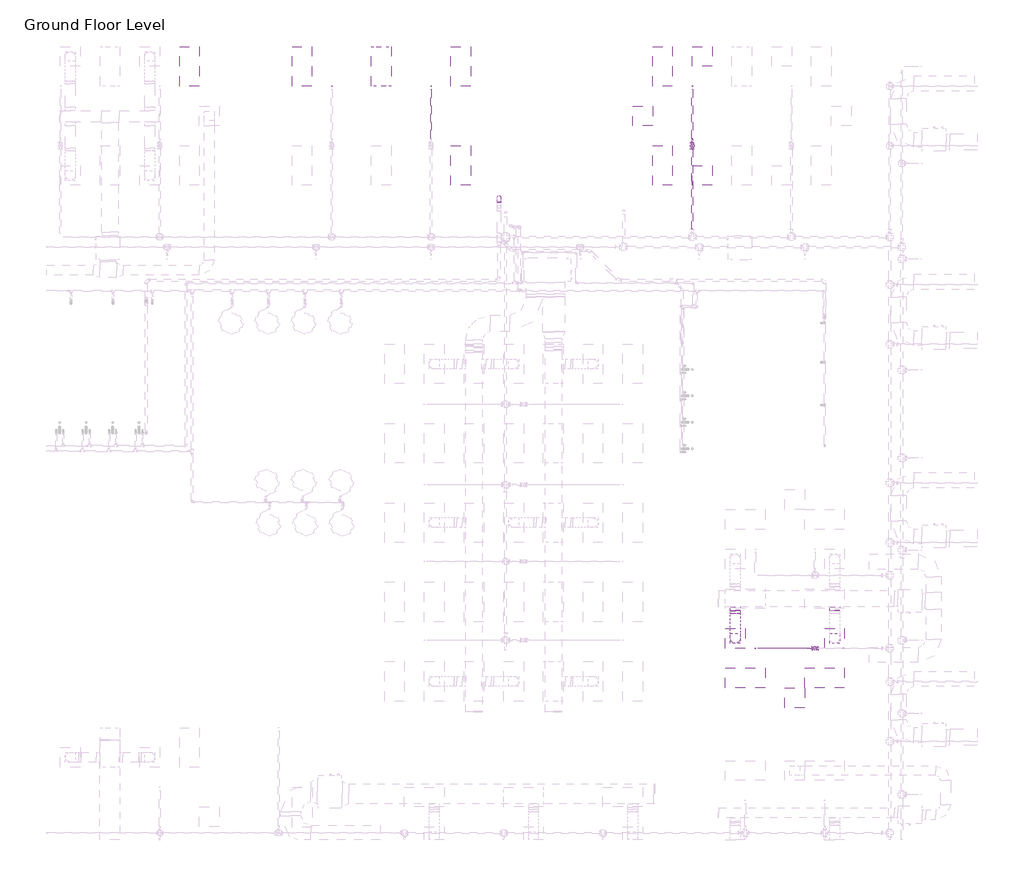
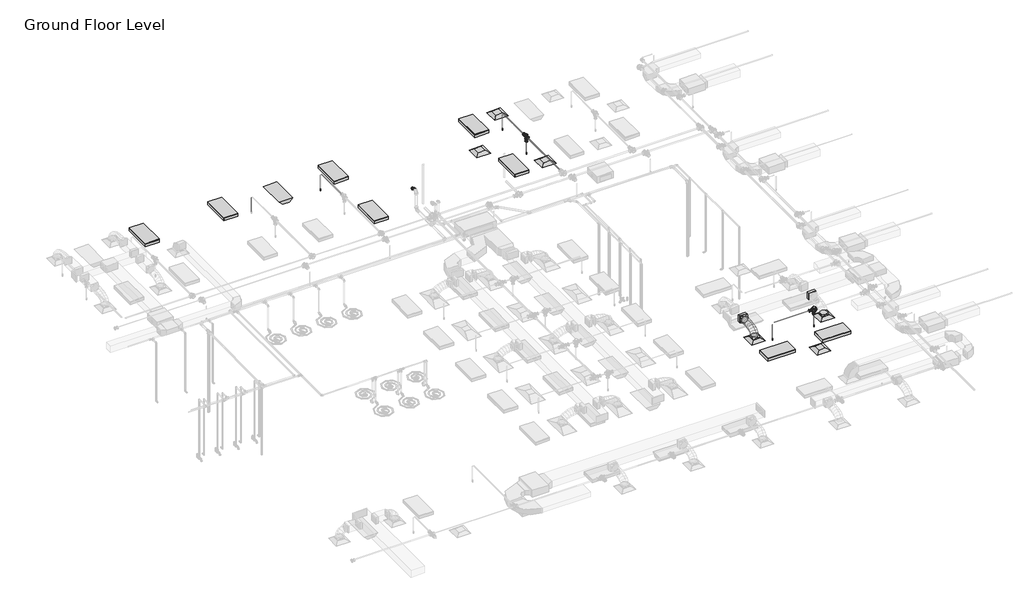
# One storey, part 54 of 66: 11 pipe segments, 9 light fixtures, 7 pipe fittings, 6 air terminals, 5 duct fittings, 5 fire suppression terminals, 3 duct segments.
"""IFC4 building model written with IfcOpenShell, lengths in millimetres."""

from ifc_helpers import new_model, si_unit, point, frame, frame_2d, origin, place, context, project, spatial, polyline, circle_curve, ellipse_curve, trimmed, segment, composite_curve, outline, extrude, transform, mapped, element, save
from ifc_brep_helpers import plane_surface, cylinder_surface, advanced_brep
from components import m_return_diffuser_600_x_600_face_300_x_300_connection_ff221211, m_rectangular_takeoff_standard_cb0ccb98, m_rectangular_to_round_transition_angle_45_degree_641efff0, m_sprinkler_dry_pendent_hosted_15_mm_dry_pendent_9bda8e11, m_emergency_recessed_lighting_fixture_600x1200_277_5b10b25d, m_troffer_light_parabolic_rectangular1_0600x1200mm_4_lamp_86473d4a, m_bend_pvc_sch_40_dwv_standard_97688ec5, m_reducer_flanged_cs_class_150_standard_ccf252ad, m_reducer_flanged_cs_class_150_standard_d42b2106, m_tee_round_base_flanged_cs_class_150_standard_7e5987a1

model = new_model("IFC4")

# Units and contexts
model_context = context("Model", 3, world=origin())
ifc_project = project(units=[si_unit("LENGTHUNIT", "METRE", prefix="MILLI")], contexts=[model_context])

# Site, building, storey
site = spatial("IfcSite", under=ifc_project)
building = spatial("IfcBuilding", under=site)
storey = spatial("IfcBuildingStorey", under=building, Name="Ground Floor Level", Elevation=900.0)

# Air terminals
placement = place(None, origin())
m_return_diffuser_600_x_600_face_300_x_300_connection_shape = m_return_diffuser_600_x_600_face_300_x_300_connection_ff221211(model_context)
element("IfcAirTerminal", 1, ObjectType="M_Return Diffuser : 600 x 600 Face 300 x 300 Connection", at=placement, inside=storey, context=model_context, shape_type="MappedRepresentation", body=[
    mapped(m_return_diffuser_600_x_600_face_300_x_300_connection_shape, transform((2762.7672395, 1135.2153534, 3650.0), x_axis=(1.0, 0.0, 0.0), y_axis=(0.0, 1.0, 0.0), z_axis=(0.0, 0.0, 1.0))),
])
element("IfcAirTerminal", 2, ObjectType="M_Return Diffuser : 600 x 600 Face 300 x 300 Connection", at=placement, inside=storey, context=model_context, shape_type="MappedRepresentation", body=[
    mapped(m_return_diffuser_600_x_600_face_300_x_300_connection_shape, transform((-1837.2327605, 18735.2153534, 3650.0), x_axis=(1.0, 0.0, 0.0), y_axis=(0.0, 1.0, 0.0), z_axis=(0.0, 0.0, 1.0))),
])
element("IfcAirTerminal", 3, ObjectType="M_Supply Diffuser : 600 x 600 Face 300 x 300 Connection", at=placement, inside=storey, context=model_context, shape_type="MappedRepresentation", body=[
    mapped(m_return_diffuser_600_x_600_face_300_x_300_connection_shape, transform((962.7672395, 2935.2153534, 3650.0), x_axis=(1.0, 0.0, 0.0), y_axis=(0.0, 1.0, 0.0), z_axis=(0.0, 0.0, 1.0))),
])
element("IfcAirTerminal", 4, ObjectType="M_Supply Diffuser : 600 x 600 Face 300 x 300 Connection", at=placement, inside=storey, context=model_context, shape_type="MappedRepresentation", body=[
    mapped(m_return_diffuser_600_x_600_face_300_x_300_connection_shape, transform((3962.7672395, 2935.2153534, 3650.0), x_axis=(1.0, 0.0, 0.0), y_axis=(0.0, 1.0, 0.0), z_axis=(0.0, 0.0, 1.0))),
])
element("IfcAirTerminal", 5, ObjectType="M_Supply Diffuser : 600 x 600 Face 300 x 300 Connection", at=placement, inside=storey, context=model_context, shape_type="MappedRepresentation", body=[
    mapped(m_return_diffuser_600_x_600_face_300_x_300_connection_shape, transform((-37.2327605, 20535.2153534, 3650.0), x_axis=(1.0, 0.0, 0.0), y_axis=(0.0, 1.0, 0.0), z_axis=(0.0, 0.0, 1.0))),
])
element("IfcAirTerminal", 6, ObjectType="M_Supply Diffuser : 600 x 600 Face 300 x 300 Connection", at=placement, inside=storey, context=model_context, shape_type="MappedRepresentation", body=[
    mapped(m_return_diffuser_600_x_600_face_300_x_300_connection_shape, transform((-37.2327605, 16935.2153534, 3650.0), x_axis=(1.0, 0.0, 0.0), y_axis=(0.0, 1.0, 0.0), z_axis=(0.0, 0.0, 1.0))),
])

# Duct fittings
m_rectangular_takeoff_standard_shape = m_rectangular_takeoff_standard_cb0ccb98(model_context)
element("IfcDuctFitting", 7, ObjectType="M_Rectangular Takeoff : Standard", at=placement, inside=storey, context=model_context, shape_type="MappedRepresentation", body=[
    mapped(m_rectangular_takeoff_standard_shape, transform((962.7672395, 3885.0199167, 4099.9886676), x_axis=(0.0, -1.0, 0.0), y_axis=(-1.0, 0.0, 0.0), z_axis=(0.0, 0.0, -1.0))),
])
element("IfcDuctFitting", 8, ObjectType="M_Rectangular Takeoff : Standard", at=placement, inside=storey, context=model_context, shape_type="MappedRepresentation", body=[
    mapped(m_rectangular_takeoff_standard_shape, transform((3962.7672395, 3885.0199167, 4099.9957478), x_axis=(0.0, -1.0, 0.0), y_axis=(-1.0, 0.0, 0.0), z_axis=(0.0, 0.0, -1.0))),
])
m_rectangular_to_round_transition_angle_45_degree_shape = m_rectangular_to_round_transition_angle_45_degree_641efff0(model_context)
element("IfcDuctFitting", 9, ObjectType="M_Rectangular to Round Transition - Angle : 45 Degree", at=placement, inside=storey, context=model_context, shape_type="MappedRepresentation", body=[
    mapped(m_rectangular_to_round_transition_angle_45_degree_shape, transform((3962.7672395, 2935.2153534, 3751.6), x_axis=(0.0, 0.0, 1.0), y_axis=(-1.0, 0.0, 0.0), z_axis=(0.0, -1.0, 0.0))),
])
element("IfcDuctFitting", 10, ObjectType="M_Rectangular to Round Transition - Angle : 45 Degree", at=placement, inside=storey, context=model_context, shape_type="MappedRepresentation", body=[
    mapped(m_rectangular_to_round_transition_angle_45_degree_shape, transform((962.7672395, 2935.2153534, 3751.6), x_axis=(0.0, 0.0, 1.0), y_axis=(-1.0, 0.0, 0.0), z_axis=(0.0, -1.0, 0.0))),
])
element("IfcDuctFitting", 11, ObjectType="M_Rectangular to Round Transition - Angle : 45 Degree", at=placement, inside=storey, context=model_context, shape_type="MappedRepresentation", body=[
    mapped(m_rectangular_to_round_transition_angle_45_degree_shape, transform((962.7672395, 3762.562617, 4099.9886676), x_axis=(0.0, -1.0, 0.0), y_axis=(1.0, 0.0, 0.0), z_axis=(0.0, 0.0, 1.0))),
])

# Duct segments
element("IfcDuctSegment", 12, ObjectType="Flex - Round", at=placement, inside=storey, context=model_context, shape_type="AdvancedBrep", body=[
    advanced_brep(
    [(1112.7672395, 2935.2153534, 3826.6), (962.7672395, 2785.2153534, 3826.6), (812.7672395, 2935.2153534, 3826.6), (962.7672395, 3085.2153534, 3826.6), (1112.7672395, 2935.2153534, 3857.9381871), (962.7672395, 2785.2153534, 3883.5819907), (812.7672395, 2935.2153534, 3857.9381871), (962.7672395, 3085.2153534, 3832.2943835), (1112.7672395, 2952.2316002, 3906.2507795), (962.7672395, 2818.4943349, 3978.0678013), (812.7672395, 2952.2316002, 3906.2507795), (962.7672395, 3085.9688654, 3834.4337577), (1112.7672395, 2999.416336, 3968.7107945), (962.7672395, 2895.2123764, 4079.622042), (812.7672395, 2999.416336, 3968.7107945), (962.7672395, 3103.6202956, 3857.7995469), (1112.7672395, 3070.9735542, 4016.0681304), (962.7672395, 3002.0425552, 4150.3234022), (812.7672395, 3070.9735542, 4016.0681304), (962.7672395, 3139.9045533, 3881.8128585), (1112.7672395, 3161.1072481, 4050.4108726), (962.7672395, 3117.549826, 4194.3339853), (812.7672395, 3161.1072481, 4050.4108726), (962.7672395, 3204.6646702, 3906.4877598), (1112.7672395, 3264.0214108, 4073.8271066), (962.7672395, 3237.463654, 4221.618182), (812.7672395, 3264.0214108, 4073.8271066), (962.7672395, 3290.5791677, 3926.0360311), (1112.7672395, 3373.9200359, 4088.4049176), (962.7672395, 3358.7718863, 4237.7094524), (812.7672395, 3373.9200359, 4088.4049176), (962.7672395, 3389.0681854, 3939.1003829), (1112.7672395, 3485.0071164, 4096.2323912), (962.7672395, 3477.5039298, 4246.0756092), (812.7672395, 3485.0071164, 4096.2323912), (962.7672395, 3492.5103029, 3946.3891733), (1112.7672395, 3591.4866457, 4099.3976128), (962.7672395, 3588.796411, 4249.383901), (812.7672395, 3591.4866457, 4099.3976128), (962.7672395, 3594.1768803, 3949.4113245), (1112.7672395, 3687.562617, 4099.9886676), (962.7672395, 3688.4853925, 3949.991506), (812.7672395, 3687.562617, 4099.9886676), (962.7672395, 3686.6398415, 4249.9858292)],
    [
        (0, 1, circle_curve(frame((962.7672395, 2935.2153534, 3826.6), z_axis=(0.0, 0.0, -1.0), x_axis=(1.0, 0.0, 0.0)), 150.0)),
        (1, 2, circle_curve(frame((962.7672395, 2935.2153534, 3826.6), z_axis=(0.0, 0.0, -1.0), x_axis=(1.0, 0.0, 0.0)), 150.0)),
        (2, 3, circle_curve(frame((962.7672395, 2935.2153534, 3826.6), z_axis=(0.0, 0.0, -1.0), x_axis=(1.0, 0.0, 0.0)), 150.0)),
        (3, 0, circle_curve(frame((962.7672395, 2935.2153534, 3826.6), z_axis=(0.0, 0.0, -1.0), x_axis=(1.0, 0.0, 0.0)), 150.0)),
        (0, 4),
        (4, 5, ellipse_curve(frame((962.7672395, 2935.2153534, 3857.9381871), z_axis=(0.0, -0.16851385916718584, -0.9856992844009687), x_axis=(0.0, 0.9856992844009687, -0.16851385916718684)), 152.176229, 150.0)),
        (5, 1),
        (5, 6, ellipse_curve(frame((962.7672395, 2935.2153534, 3857.9381871), z_axis=(0.0, -0.16851385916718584, -0.9856992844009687), x_axis=(0.0, 0.9856992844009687, -0.16851385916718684)), 152.176229, 150.0)),
        (6, 2),
        (6, 7, ellipse_curve(frame((962.7672395, 2935.2153534, 3857.9381871), z_axis=(0.0, -0.16851385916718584, -0.9856992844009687), x_axis=(0.0, 0.9856992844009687, -0.16851385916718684)), 152.176229, 150.0)),
        (7, 3),
        (7, 4, ellipse_curve(frame((962.7672395, 2935.2153534, 3857.9381871), z_axis=(0.0, -0.16851385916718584, -0.9856992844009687), x_axis=(0.0, 0.9856992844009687, -0.16851385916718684)), 152.176229, 150.0)),
        (4, 8),
        (8, 9, ellipse_curve(frame((962.7672395, 2952.2316002, 3906.2507795), z_axis=(0.0, -0.47310187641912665, -0.8810077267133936), x_axis=(0.0, 0.881007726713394, -0.47310187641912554)), 151.8003318, 150.0)),
        (9, 5),
        (9, 10, ellipse_curve(frame((962.7672395, 2952.2316002, 3906.2507795), z_axis=(0.0, -0.47310187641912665, -0.8810077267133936), x_axis=(0.0, 0.881007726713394, -0.47310187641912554)), 151.8003318, 150.0)),
        (10, 6),
        (10, 11, ellipse_curve(frame((962.7672395, 2952.2316002, 3906.2507795), z_axis=(0.0, -0.47310187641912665, -0.8810077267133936), x_axis=(0.0, 0.881007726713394, -0.47310187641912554)), 151.8003318, 150.0)),
        (11, 7),
        (11, 8, ellipse_curve(frame((962.7672395, 2952.2316002, 3906.2507795), z_axis=(0.0, -0.47310187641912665, -0.8810077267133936), x_axis=(0.0, 0.881007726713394, -0.47310187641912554)), 151.8003318, 150.0)),
        (8, 12),
        (12, 13, ellipse_curve(frame((962.7672395, 2999.416336, 3968.7107945), z_axis=(0.0, -0.7288001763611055, -0.6847264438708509), x_axis=(0.0, 0.6847264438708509, -0.7288001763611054)), 152.1833434, 150.0)),
        (13, 9),
        (13, 14, ellipse_curve(frame((962.7672395, 2999.416336, 3968.7107945), z_axis=(0.0, -0.7288001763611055, -0.6847264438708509), x_axis=(0.0, 0.6847264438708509, -0.7288001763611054)), 152.1833434, 150.0)),
        (14, 10),
        (14, 15, ellipse_curve(frame((962.7672395, 2999.416336, 3968.7107945), z_axis=(0.0, -0.7288001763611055, -0.6847264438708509), x_axis=(0.0, 0.6847264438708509, -0.7288001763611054)), 152.1833434, 150.0)),
        (15, 11),
        (15, 12, ellipse_curve(frame((962.7672395, 2999.416336, 3968.7107945), z_axis=(0.0, -0.7288001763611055, -0.6847264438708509), x_axis=(0.0, 0.6847264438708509, -0.7288001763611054)), 152.1833434, 150.0)),
        (12, 16),
        (16, 17, ellipse_curve(frame((962.7672395, 3070.9735542, 4016.0681304), z_axis=(0.0, -0.8895963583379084, -0.45674754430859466), x_axis=(0.0, 0.4567475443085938, -0.8895963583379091)), 150.9170655, 150.0)),
        (17, 13),
        (17, 18, ellipse_curve(frame((962.7672395, 3070.9735542, 4016.0681304), z_axis=(0.0, -0.8895963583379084, -0.45674754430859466), x_axis=(0.0, 0.4567475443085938, -0.8895963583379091)), 150.9170655, 150.0)),
        (18, 14),
        (18, 19, ellipse_curve(frame((962.7672395, 3070.9735542, 4016.0681304), z_axis=(0.0, -0.8895963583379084, -0.45674754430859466), x_axis=(0.0, 0.4567475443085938, -0.8895963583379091)), 150.9170655, 150.0)),
        (19, 15),
        (19, 16, ellipse_curve(frame((962.7672395, 3070.9735542, 4016.0681304), z_axis=(0.0, -0.8895963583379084, -0.45674754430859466), x_axis=(0.0, 0.4567475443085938, -0.8895963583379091)), 150.9170655, 150.0)),
        (16, 20),
        (20, 21, ellipse_curve(frame((962.7672395, 3161.1072481, 4050.4108726), z_axis=(0.0, -0.9571270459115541, -0.2896684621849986), x_axis=(0.0, 0.2896684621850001, -0.9571270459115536)), 150.3699152, 150.0)),
        (21, 17),
        (21, 22, ellipse_curve(frame((962.7672395, 3161.1072481, 4050.4108726), z_axis=(0.0, -0.9571270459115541, -0.2896684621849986), x_axis=(0.0, 0.2896684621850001, -0.9571270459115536)), 150.3699152, 150.0)),
        (22, 18),
        (22, 23, ellipse_curve(frame((962.7672395, 3161.1072481, 4050.4108726), z_axis=(0.0, -0.9571270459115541, -0.2896684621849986), x_axis=(0.0, 0.2896684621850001, -0.9571270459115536)), 150.3699152, 150.0)),
        (23, 19),
        (23, 20, ellipse_curve(frame((962.7672395, 3161.1072481, 4050.4108726), z_axis=(0.0, -0.9571270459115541, -0.2896684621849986), x_axis=(0.0, 0.2896684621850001, -0.9571270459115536)), 150.3699152, 150.0)),
        (20, 24),
        (24, 25, ellipse_curve(frame((962.7672395, 3264.0214108, 4073.8271066), z_axis=(0.0, -0.984235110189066, -0.1768650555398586), x_axis=(0.0, 0.1768650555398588, -0.984235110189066)), 150.1583045, 150.0)),
        (25, 21),
        (25, 26, ellipse_curve(frame((962.7672395, 3264.0214108, 4073.8271066), z_axis=(0.0, -0.984235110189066, -0.1768650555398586), x_axis=(0.0, 0.1768650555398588, -0.984235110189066)), 150.1583045, 150.0)),
        (26, 22),
        (26, 27, ellipse_curve(frame((962.7672395, 3264.0214108, 4073.8271066), z_axis=(0.0, -0.984235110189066, -0.1768650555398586), x_axis=(0.0, 0.1768650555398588, -0.984235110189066)), 150.1583045, 150.0)),
        (27, 23),
        (27, 24, ellipse_curve(frame((962.7672395, 3264.0214108, 4073.8271066), z_axis=(0.0, -0.984235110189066, -0.1768650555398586), x_axis=(0.0, 0.1768650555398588, -0.984235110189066)), 150.1583045, 150.0)),
        (24, 28),
        (28, 29, ellipse_curve(frame((962.7672395, 3373.9200359, 4088.4049176), z_axis=(0.0, -0.9948925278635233, -0.10093987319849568), x_axis=(0.0, 0.10093987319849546, -0.9948925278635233)), 150.0710183, 150.0)),
        (29, 25),
        (29, 30, ellipse_curve(frame((962.7672395, 3373.9200359, 4088.4049176), z_axis=(0.0, -0.9948925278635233, -0.10093987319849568), x_axis=(0.0, 0.10093987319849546, -0.9948925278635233)), 150.0710183, 150.0)),
        (30, 26),
        (30, 31, ellipse_curve(frame((962.7672395, 3373.9200359, 4088.4049176), z_axis=(0.0, -0.9948925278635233, -0.10093987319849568), x_axis=(0.0, 0.10093987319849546, -0.9948925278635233)), 150.0710183, 150.0)),
        (31, 27),
        (31, 28, ellipse_curve(frame((962.7672395, 3373.9200359, 4088.4049176), z_axis=(0.0, -0.9948925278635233, -0.10093987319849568), x_axis=(0.0, 0.10093987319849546, -0.9948925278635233)), 150.0710183, 150.0)),
        (28, 32),
        (32, 33, ellipse_curve(frame((962.7672395, 3485.0071164, 4096.2323912), z_axis=(0.0, -0.9987486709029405, -0.050010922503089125), x_axis=(0.0, 0.05001092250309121, -0.9987486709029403)), 150.0309561, 150.0)),
        (33, 29),
        (33, 34, ellipse_curve(frame((962.7672395, 3485.0071164, 4096.2323912), z_axis=(0.0, -0.9987486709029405, -0.050010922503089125), x_axis=(0.0, 0.05001092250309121, -0.9987486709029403)), 150.0309561, 150.0)),
        (34, 30),
        (34, 35, ellipse_curve(frame((962.7672395, 3485.0071164, 4096.2323912), z_axis=(0.0, -0.9987486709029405, -0.050010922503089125), x_axis=(0.0, 0.05001092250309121, -0.9987486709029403)), 150.0309561, 150.0)),
        (35, 31),
        (35, 32, ellipse_curve(frame((962.7672395, 3485.0071164, 4096.2323912), z_axis=(0.0, -0.9987486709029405, -0.050010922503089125), x_axis=(0.0, 0.05001092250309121, -0.9987486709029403)), 150.0309561, 150.0)),
        (32, 36),
        (36, 37, ellipse_curve(frame((962.7672395, 3591.4866457, 4099.3976128), z_axis=(0.0, -0.9998391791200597, -0.017933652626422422), x_axis=(0.0, 0.01793365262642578, -0.9998391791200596)), 150.0104131, 150.0)),
        (37, 33),
        (37, 38, ellipse_curve(frame((962.7672395, 3591.4866457, 4099.3976128), z_axis=(0.0, -0.9998391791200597, -0.017933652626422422), x_axis=(0.0, 0.01793365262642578, -0.9998391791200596)), 150.0104131, 150.0)),
        (38, 34),
        (38, 39, ellipse_curve(frame((962.7672395, 3591.4866457, 4099.3976128), z_axis=(0.0, -0.9998391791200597, -0.017933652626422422), x_axis=(0.0, 0.01793365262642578, -0.9998391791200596)), 150.0104131, 150.0)),
        (39, 35),
        (39, 36, ellipse_curve(frame((962.7672395, 3591.4866457, 4099.3976128), z_axis=(0.0, -0.9998391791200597, -0.017933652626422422), x_axis=(0.0, 0.01793365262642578, -0.9998391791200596)), 150.0104131, 150.0)),
        (40, 41, circle_curve(frame((962.7672395, 3687.562617, 4099.9886676), z_axis=(0.0, 0.9999810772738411, 0.006151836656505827), x_axis=(1.0, 0.0, 0.0)), 150.0)),
        (41, 42, circle_curve(frame((962.7672395, 3687.562617, 4099.9886676), z_axis=(0.0, 0.9999810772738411, 0.006151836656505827), x_axis=(1.0, 0.0, 0.0)), 150.0)),
        (42, 43, circle_curve(frame((962.7672395, 3687.562617, 4099.9886676), z_axis=(0.0, 0.9999810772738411, 0.006151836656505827), x_axis=(1.0, 0.0, 0.0)), 150.0)),
        (43, 40, circle_curve(frame((962.7672395, 3687.562617, 4099.9886676), z_axis=(0.0, 0.9999810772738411, 0.006151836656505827), x_axis=(1.0, 0.0, 0.0)), 150.0)),
        (36, 40),
        (43, 37),
        (42, 38),
        (41, 39),
    ],
    [
        plane_surface(frame((962.7672395, 2785.2153534, 3826.6), z_axis=(0.0, 0.0, -1.0), x_axis=(1.0, 0.0, 0.0))),
        cylinder_surface(frame((962.7672395, 2935.2153534, 3826.6), z_axis=(0.0, 0.0, -1.0), x_axis=(1.0, 0.0, 0.0)), 150.0),
        cylinder_surface(frame((962.7672395, 2935.2153534, 3857.9381871), z_axis=(0.0, -0.33220798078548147, -0.9432061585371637), x_axis=(1.0, 0.0, 0.0)), 150.0),
        cylinder_surface(frame((962.7672395, 2952.2316002, 3906.2507795), z_axis=(0.0, -0.6027739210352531, -0.7979120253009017), x_axis=(1.0, 0.0, 0.0)), 150.0),
        cylinder_surface(frame((962.7672395, 2999.416336, 3968.7107945), z_axis=(0.0, -0.83391453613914, -0.5518936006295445), x_axis=(1.0, 0.0, 0.0)), 150.0),
        cylinder_surface(frame((962.7672395, 3070.9735542, 4016.0681304), z_axis=(0.0, -0.9344667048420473, -0.35605052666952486), x_axis=(1.0, 0.0, 0.0)), 150.0),
        cylinder_surface(frame((962.7672395, 3161.1072481, 4050.4108726), z_axis=(0.0, -0.975078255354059, -0.22186120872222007), x_axis=(1.0, 0.0, 0.0)), 150.0),
        cylinder_surface(frame((962.7672395, 3264.0214108, 4073.8271066), z_axis=(0.0, -0.9913167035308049, -0.1314959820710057), x_axis=(1.0, 0.0, 0.0)), 150.0),
        cylinder_surface(frame((962.7672395, 3373.9200359, 4088.4049176), z_axis=(0.0, -0.9975267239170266, -0.07028822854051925), x_axis=(1.0, 0.0, 0.0)), 150.0),
        cylinder_surface(frame((962.7672395, 3485.0071164, 4096.2323912), z_axis=(0.0, -0.9995584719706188, -0.029712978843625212), x_axis=(1.0, 0.0, 0.0)), 150.0),
        plane_surface(frame((962.7672395, 3686.6398415, 4249.9858292), z_axis=(0.0, 0.9999810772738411, 0.00615183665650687), x_axis=(1.0, 0.0, 0.0))),
        cylinder_surface(frame((962.7672395, 3591.4866457, 4099.3976128), z_axis=(0.0, -0.9999810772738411, -0.006151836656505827), x_axis=(1.0, 0.0, 0.0)), 150.0),
    ],
    [
        (0, [[1, 2, 3, 4]]),
        (1, [[-1, 5, 6, 7]]),
        (1, [[-2, -7, 8, 9]]),
        (1, [[-3, -9, 10, 11]]),
        (1, [[-4, -11, 12, -5]]),
        (2, [[-6, 13, 14, 15]]),
        (2, [[-8, -15, 16, 17]]),
        (2, [[-10, -17, 18, 19]]),
        (2, [[-12, -19, 20, -13]]),
        (3, [[-14, 21, 22, 23]]),
        (3, [[-16, -23, 24, 25]]),
        (3, [[-18, -25, 26, 27]]),
        (3, [[-20, -27, 28, -21]]),
        (4, [[-22, 29, 30, 31]]),
        (4, [[-24, -31, 32, 33]]),
        (4, [[-26, -33, 34, 35]]),
        (4, [[-28, -35, 36, -29]]),
        (5, [[-30, 37, 38, 39]]),
        (5, [[-32, -39, 40, 41]]),
        (5, [[-34, -41, 42, 43]]),
        (5, [[-36, -43, 44, -37]]),
        (6, [[-38, 45, 46, 47]]),
        (6, [[-40, -47, 48, 49]]),
        (6, [[-42, -49, 50, 51]]),
        (6, [[-44, -51, 52, -45]]),
        (7, [[-46, 53, 54, 55]]),
        (7, [[-48, -55, 56, 57]]),
        (7, [[-50, -57, 58, 59]]),
        (7, [[-52, -59, 60, -53]]),
        (8, [[-54, 61, 62, 63]]),
        (8, [[-56, -63, 64, 65]]),
        (8, [[-58, -65, 66, 67]]),
        (8, [[-60, -67, 68, -61]]),
        (9, [[-62, 69, 70, 71]]),
        (9, [[-64, -71, 72, 73]]),
        (9, [[-66, -73, 74, 75]]),
        (9, [[-68, -75, 76, -69]]),
        (10, [[77, 78, 79, 80]]),
        (11, [[-70, 81, -80, 82]]),
        (11, [[-72, -82, -79, 83]]),
        (11, [[-74, -83, -78, 84]]),
        (11, [[-76, -84, -77, -81]]),
    ],
),
])
element("IfcDuctSegment", 13, ObjectType="Radius Elbows / Taps", at=placement, inside=storey, context=model_context, shape_type="SweptSolid", body=[
    extrude(outline(polyline([(812.7672395, 3783.4199167), (1112.7672395, 3783.4199167), (1112.7672395, 3762.562617), (812.7672395, 3762.562617), (812.7672395, 3783.4199167)])), frame((0.0, 0.0, 3949.9886676), z_axis=(0.0, 0.0, 1.0), x_axis=(1.0, 0.0, 0.0)), (0.0, 0.0, 1.0), 300.0),
])
element("IfcDuctSegment", 14, ObjectType="Radius Elbows / Taps", at=placement, inside=storey, context=model_context, shape_type="SweptSolid", body=[
    extrude(outline(polyline([(3812.7672395, 3783.4199167), (4112.7672395, 3783.4199167), (4112.7672395, 3762.5555369), (3812.7672395, 3762.5555369), (3812.7672395, 3783.4199167)])), frame((0.0, 0.0, 3949.9957478), z_axis=(0.0, 0.0, 1.0), x_axis=(1.0, 0.0, 0.0)), (0.0, 0.0, 1.0), 300.0),
])

# Fire suppression terminals
m_sprinkler_dry_pendent_hosted_15_mm_dry_pendent_shape = m_sprinkler_dry_pendent_hosted_15_mm_dry_pendent_9bda8e11(model_context)
element("IfcFireSuppressionTerminal", 15, ObjectType="M_Sprinkler - Dry - Pendent - Hosted : 15 mm Dry Pendent", at=placement, inside=storey, context=model_context, shape_type="MappedRepresentation", body=[
    mapped(m_sprinkler_dry_pendent_hosted_15_mm_dry_pendent_shape, transform((-8237.2327605, 19635.2153534, 3650.0), x_axis=(1.0, 0.0, 0.0), y_axis=(0.0, -1.0, 0.0), z_axis=(0.0, 0.0, -1.0))),
])
element("IfcFireSuppressionTerminal", 16, ObjectType="M_Sprinkler - Dry - Pendent - Hosted : 15 mm Dry Pendent", at=placement, inside=storey, context=model_context, shape_type="MappedRepresentation", body=[
    mapped(m_sprinkler_dry_pendent_hosted_15_mm_dry_pendent_shape, transform((-337.2327605, 19635.2153534, 3650.0), x_axis=(1.0, 0.0, 0.0), y_axis=(0.0, -1.0, 0.0), z_axis=(0.0, 0.0, -1.0))),
])
element("IfcFireSuppressionTerminal", 17, ObjectType="M_Sprinkler - Dry - Pendent - Hosted : 15 mm Dry Pendent", at=placement, inside=storey, context=model_context, shape_type="MappedRepresentation", body=[
    mapped(m_sprinkler_dry_pendent_hosted_15_mm_dry_pendent_shape, transform((-337.2327605, 17835.2153534, 3650.0), x_axis=(1.0, 0.0, 0.0), y_axis=(0.0, -1.0, 0.0), z_axis=(0.0, 0.0, -1.0))),
])
element("IfcFireSuppressionTerminal", 18, ObjectType="M_Sprinkler - Dry - Pendent - Hosted : 15 mm Dry Pendent", at=placement, inside=storey, context=model_context, shape_type="MappedRepresentation", body=[
    mapped(m_sprinkler_dry_pendent_hosted_15_mm_dry_pendent_shape, transform((3367.3772563, 2635.2153534, 3650.0), x_axis=(1.0, 0.0, 0.0), y_axis=(0.0, -1.0, 0.0), z_axis=(0.0, 0.0, -1.0))),
])
element("IfcFireSuppressionTerminal", 19, ObjectType="M_Sprinkler - Dry - Pendent - Hosted : 15 mm Dry Pendent", at=placement, inside=storey, context=model_context, shape_type="MappedRepresentation", body=[
    mapped(m_sprinkler_dry_pendent_hosted_15_mm_dry_pendent_shape, transform((1565.5763283, 2635.2153534, 3650.0), x_axis=(1.0, 0.0, 0.0), y_axis=(0.0, -1.0, 0.0), z_axis=(0.0, 0.0, -1.0))),
])

# Light fixtures
m_emergency_recessed_lighting_fixture_600x1200_277_shape = m_emergency_recessed_lighting_fixture_600x1200_277_5b10b25d(model_context)
element("IfcLightFixture", 20, ObjectType="M_Emergency Recessed Lighting Fixture : 600x1200 - 277", at=placement, inside=storey, context=model_context, shape_type="MappedRepresentation", body=[
    mapped(m_emergency_recessed_lighting_fixture_600x1200_277_shape, transform((-10037.2327605, 19635.2153534, 3650.0), x_axis=(0.0, 1.0, 0.0), y_axis=(-1.0, 0.0, 0.0), z_axis=(0.0, 0.0, 1.0))),
])
m_troffer_light_parabolic_rectangular1_0600x1200mm_4_lamp_shape = m_troffer_light_parabolic_rectangular1_0600x1200mm_4_lamp_86473d4a(model_context)
element("IfcLightFixture", 21, ObjectType="M_Troffer Light - Parabolic Rectangular1 : 0600x1200mm(4 Lamp) - 277V 2", at=placement, inside=storey, context=model_context, shape_type="MappedRepresentation", body=[
    mapped(m_troffer_light_parabolic_rectangular1_0600x1200mm_4_lamp_shape, transform((-15596.6986926, 20253.918855, 3650.0), x_axis=(0.0, 1.0, 0.0), y_axis=(-1.0, 0.0, 0.0), z_axis=(0.0, 0.0, 1.0))),
])
element("IfcLightFixture", 22, ObjectType="M_Troffer Light - Parabolic Rectangular1 : 0600x1200mm(4 Lamp) - 277V 2", at=placement, inside=storey, context=model_context, shape_type="MappedRepresentation", body=[
    mapped(m_troffer_light_parabolic_rectangular1_0600x1200mm_4_lamp_shape, transform((-12196.6986926, 20253.918855, 3650.0), x_axis=(0.0, 1.0, 0.0), y_axis=(-1.0, 0.0, 0.0), z_axis=(0.0, 0.0, 1.0))),
])
element("IfcLightFixture", 23, ObjectType="M_Troffer Light - Parabolic Rectangular1 : 0600x1200mm(4 Lamp) - 277V 2", at=placement, inside=storey, context=model_context, shape_type="MappedRepresentation", body=[
    mapped(m_troffer_light_parabolic_rectangular1_0600x1200mm_4_lamp_shape, transform((-7396.6986926, 20253.918855, 3650.0), x_axis=(0.0, 1.0, 0.0), y_axis=(-1.0, 0.0, 0.0), z_axis=(0.0, 0.0, 1.0))),
])
element("IfcLightFixture", 24, ObjectType="M_Troffer Light - Parabolic Rectangular1 : 0600x1200mm(4 Lamp) - 277V 2", at=placement, inside=storey, context=model_context, shape_type="MappedRepresentation", body=[
    mapped(m_troffer_light_parabolic_rectangular1_0600x1200mm_4_lamp_shape, transform((-7396.6986926, 17253.918855, 3650.0), x_axis=(0.0, 1.0, 0.0), y_axis=(-1.0, 0.0, 0.0), z_axis=(0.0, 0.0, 1.0))),
])
element("IfcLightFixture", 25, ObjectType="M_Troffer Light - Parabolic Rectangular1 : 0600x1200mm(4 Lamp) - 277V 2", at=placement, inside=storey, context=model_context, shape_type="MappedRepresentation", body=[
    mapped(m_troffer_light_parabolic_rectangular1_0600x1200mm_4_lamp_shape, transform((-1296.6986926, 20253.918855, 3650.0), x_axis=(0.0, 1.0, 0.0), y_axis=(-1.0, 0.0, 0.0), z_axis=(0.0, 0.0, 1.0))),
])
element("IfcLightFixture", 26, ObjectType="M_Troffer Light - Parabolic Rectangular1 : 0600x1200mm(4 Lamp) - 277V 2", at=placement, inside=storey, context=model_context, shape_type="MappedRepresentation", body=[
    mapped(m_troffer_light_parabolic_rectangular1_0600x1200mm_4_lamp_shape, transform((-1296.6986926, 17253.918855, 3650.0), x_axis=(0.0, 1.0, 0.0), y_axis=(-1.0, 0.0, 0.0), z_axis=(0.0, 0.0, 1.0))),
])
element("IfcLightFixture", 27, ObjectType="M_Troffer Light - Parabolic Rectangular1 : 0600x1200mm(4 Lamp) - 277V 2", at=placement, inside=storey, context=model_context, shape_type="MappedRepresentation", body=[
    mapped(m_troffer_light_parabolic_rectangular1_0600x1200mm_4_lamp_shape, transform((1281.4707411, 1794.6812855, 3650.0), x_axis=(1.0, 0.0, 0.0), y_axis=(0.0, 1.0, 0.0), z_axis=(0.0, 0.0, 1.0))),
])
element("IfcLightFixture", 28, ObjectType="M_Troffer Light - Parabolic Rectangular1 : 0600x1200mm(4 Lamp) - 277V 2", at=placement, inside=storey, context=model_context, shape_type="MappedRepresentation", body=[
    mapped(m_troffer_light_parabolic_rectangular1_0600x1200mm_4_lamp_shape, transform((3681.4707411, 1794.6812855, 3650.0), x_axis=(1.0, 0.0, 0.0), y_axis=(0.0, 1.0, 0.0), z_axis=(0.0, 0.0, 1.0))),
])

# Pipe fittings
m_bend_pvc_sch_40_dwv_standard_shape = m_bend_pvc_sch_40_dwv_standard_97688ec5(model_context)
element("IfcPipeFitting", 29, ObjectType="M_Bend - PVC - Sch 40 - DWV : Standard", at=placement, inside=storey, context=model_context, shape_type="MappedRepresentation", body=[
    mapped(m_bend_pvc_sch_40_dwv_standard_shape, transform((-6179.1776394, 16218.4450744, 5030.0015941), x_axis=(0.0, 0.9999500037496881, 0.009999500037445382), y_axis=(0.0, 0.009999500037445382, -0.9999500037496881), z_axis=(-1.0, 0.0, 0.0))),
])
m_reducer_flanged_cs_class_150_standard_shape = m_reducer_flanged_cs_class_150_standard_ccf252ad(model_context)
element("IfcPipeFitting", 30, ObjectType="M_Reducer - Flanged - CS - Class 150 : Standard", at=placement, inside=storey, context=model_context, shape_type="MappedRepresentation", body=[
    mapped(m_reducer_flanged_cs_class_150_standard_shape, transform((3266.6686625, 2635.2153534, 4360.0), x_axis=(-1.0, 0.0, 0.0), y_axis=(0.0, 0.0, 1.0), z_axis=(0.0, 1.0, 0.0))),
])
element("IfcPipeFitting", 31, ObjectType="M_Reducer - Flanged - CS - Class 150 : Standard", at=placement, inside=storey, context=model_context, shape_type="MappedRepresentation", body=[
    mapped(m_reducer_flanged_cs_class_150_standard_shape, transform((3367.3772563, 2635.2153534, 4259.2914062), x_axis=(0.0, 0.0, -1.0), y_axis=(-1.0, 0.0, 0.0), z_axis=(0.0, 1.0, 0.0))),
])
m_reducer_flanged_cs_class_150_standard_2_shape = m_reducer_flanged_cs_class_150_standard_d42b2106(model_context)
element("IfcPipeFitting", 32, ObjectType="M_Reducer - Flanged - CS - Class 150 : Standard", at=placement, inside=storey, context=model_context, shape_type="MappedRepresentation", body=[
    mapped(m_reducer_flanged_cs_class_150_standard_2_shape, transform((-337.2327605, 17935.9239471, 4360.0), x_axis=(0.0, 1.0, 0.0), y_axis=(-1.0, 0.0, 0.0), z_axis=(0.0, 0.0, 1.0))),
])
element("IfcPipeFitting", 33, ObjectType="M_Reducer - Flanged - CS - Class 150 : Standard", at=placement, inside=storey, context=model_context, shape_type="MappedRepresentation", body=[
    mapped(m_reducer_flanged_cs_class_150_standard_2_shape, transform((-337.2327605, 17835.2153534, 4259.2914063), x_axis=(0.0, 0.0, -1.0), y_axis=(-1.0, 0.0, 0.0), z_axis=(0.0, 1.0, 0.0))),
])
m_tee_round_base_flanged_cs_class_150_standard_shape = m_tee_round_base_flanged_cs_class_150_standard_7e5987a1(model_context)
element("IfcPipeFitting", 34, ObjectType="M_Tee Round Base - Flanged - CS - Class 150 : Standard", at=placement, inside=storey, context=model_context, shape_type="MappedRepresentation", body=[
    mapped(m_tee_round_base_flanged_cs_class_150_standard_shape, transform((-337.2327605, 17835.2153534, 4360.0), x_axis=(0.0, 1.0, 0.0), y_axis=(0.0, 0.0, 1.0), z_axis=(1.0, 0.0, 0.0))),
])
element("IfcPipeFitting", 35, ObjectType="M_Tee Round Base - Flanged - CS - Class 150 : Standard", at=placement, inside=storey, context=model_context, shape_type="MappedRepresentation", body=[
    mapped(m_tee_round_base_flanged_cs_class_150_standard_shape, transform((3367.3772563, 2635.2153534, 4360.0), x_axis=(-1.0, 0.0, 0.0), y_axis=(0.0, 0.0, 1.0), z_axis=(0.0, 1.0, 0.0))),
])

# Pipe segments
element("IfcPipeSegment", 36, ObjectType="PVC - DWV", at=placement, inside=storey, context=model_context, shape_type="SweptSolid", body=[
    extrude(outline(composite_curve([segment(trimmed(circle_curve(frame_2d((0.0, 50.8)), 50.8), [point((50.8, 50.8))], [point((0.0, 0.0))], False, "CARTESIAN"), True, "CONTINUOUS"), segment(trimmed(circle_curve(frame_2d((0.0, 50.8)), 50.8), [point((0.0, 0.0))], [point((-50.8, 50.8))], False, "CARTESIAN"), True, "CONTINUOUS"), segment(trimmed(circle_curve(frame_2d((0.0, 50.8)), 50.8), [point((-50.8, 50.8))], [point((0.0, 101.6))], False, "CARTESIAN"), True, "CONTINUOUS"), segment(trimmed(circle_curve(frame_2d((0.0, 50.8)), 50.8), [point((0.0, 101.6))], [point((50.8, 50.8))], False, "CARTESIAN"), True, "CONTINUOUS")], self_intersect=False)), frame((-6179.1776394, 16116.3721218, 5079.7834046), z_axis=(0.0, 0.9999500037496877, 0.009999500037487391), x_axis=(1.0, 0.0, 0.0)), (0.0, 0.0, 1.0), 5.0778686),
])
element("IfcPipeSegment", 37, ObjectType="Steel flanged", at=placement, inside=storey, context=model_context, shape_type="SweptSolid", body=[
    extrude(outline(composite_curve([segment(trimmed(circle_curve(frame_2d((-11237.2327605, 19635.2153534)), 10.668), [point((-11247.9007605, 19635.2153534))], [point((-11237.2327605, 19645.8833534))], False, "CARTESIAN"), True, "CONTINUOUS"), segment(trimmed(circle_curve(frame_2d((-11237.2327605, 19635.2153534)), 10.668), [point((-11237.2327605, 19645.8833534))], [point((-11226.5647605, 19635.2153534))], False, "CARTESIAN"), True, "CONTINUOUS"), segment(trimmed(circle_curve(frame_2d((-11237.2327605, 19635.2153534)), 10.668), [point((-11226.5647605, 19635.2153534))], [point((-11237.2327605, 19624.5473534))], False, "CARTESIAN"), True, "CONTINUOUS"), segment(trimmed(circle_curve(frame_2d((-11237.2327605, 19635.2153534)), 10.668), [point((-11237.2327605, 19624.5473534))], [point((-11247.9007605, 19635.2153534))], False, "CARTESIAN"), True, "CONTINUOUS")], self_intersect=False)), frame((0.0, 0.0, 3650.0), z_axis=(0.0, 0.0, 1.0), x_axis=(1.0, 0.0, 0.0)), (0.0, 0.0, 1.0), 616.9914063),
])
element("IfcPipeSegment", 38, ObjectType="Steel flanged", at=placement, inside=storey, context=model_context, shape_type="SweptSolid", body=[
    extrude(outline(composite_curve([segment(trimmed(circle_curve(frame_2d((-8237.2327605, 19635.2153534)), 10.668), [point((-8247.9007605, 19635.2153534))], [point((-8237.2327605, 19645.8833534))], False, "CARTESIAN"), True, "CONTINUOUS"), segment(trimmed(circle_curve(frame_2d((-8237.2327605, 19635.2153534)), 10.668), [point((-8237.2327605, 19645.8833534))], [point((-8226.5647605, 19635.2153534))], False, "CARTESIAN"), True, "CONTINUOUS"), segment(trimmed(circle_curve(frame_2d((-8237.2327605, 19635.2153534)), 10.668), [point((-8226.5647605, 19635.2153534))], [point((-8237.2327605, 19624.5473534))], False, "CARTESIAN"), True, "CONTINUOUS"), segment(trimmed(circle_curve(frame_2d((-8237.2327605, 19635.2153534)), 10.668), [point((-8237.2327605, 19624.5473534))], [point((-8247.9007605, 19635.2153534))], False, "CARTESIAN"), True, "CONTINUOUS")], self_intersect=False)), frame((0.0, 0.0, 3650.0), z_axis=(0.0, 0.0, 1.0), x_axis=(1.0, 0.0, 0.0)), (0.0, 0.0, 1.0), 616.9914063),
])
element("IfcPipeSegment", 39, ObjectType="Steel flanged", at=placement, inside=storey, context=model_context, shape_type="SweptSolid", body=[
    extrude(outline(composite_curve([segment(trimmed(circle_curve(frame_2d((4360.0, -8237.2327605)), 10.668), [point((4360.0, -8247.9007605))], [point((4349.332, -8237.2327605))], False, "CARTESIAN"), True, "CONTINUOUS"), segment(trimmed(circle_curve(frame_2d((4360.0, -8237.2327605)), 10.668), [point((4349.332, -8237.2327605))], [point((4360.0, -8226.5647605))], False, "CARTESIAN"), True, "CONTINUOUS"), segment(trimmed(circle_curve(frame_2d((4360.0, -8237.2327605)), 10.668), [point((4360.0, -8226.5647605))], [point((4370.668, -8237.2327605))], False, "CARTESIAN"), True, "CONTINUOUS"), segment(trimmed(circle_curve(frame_2d((4360.0, -8237.2327605)), 10.668), [point((4370.668, -8237.2327605))], [point((4360.0, -8247.9007605))], False, "CARTESIAN"), True, "CONTINUOUS")], self_intersect=False)), frame((0.0, 18049.9239471, 0.0), z_axis=(0.0, 1.0, 0.0), x_axis=(0.0, 0.0, 1.0)), (0.0, 0.0, 1.0), 1492.2828125),
])
element("IfcPipeSegment", 40, ObjectType="Steel flanged", at=placement, inside=storey, context=model_context, shape_type="SweptSolid", body=[
    extrude(outline(composite_curve([segment(trimmed(circle_curve(frame_2d((-337.2327605, 19635.2153534)), 10.668), [point((-347.9007605, 19635.2153534))], [point((-337.2327605, 19645.8833534))], False, "CARTESIAN"), True, "CONTINUOUS"), segment(trimmed(circle_curve(frame_2d((-337.2327605, 19635.2153534)), 10.668), [point((-337.2327605, 19645.8833534))], [point((-326.5647605, 19635.2153534))], False, "CARTESIAN"), True, "CONTINUOUS"), segment(trimmed(circle_curve(frame_2d((-337.2327605, 19635.2153534)), 10.668), [point((-326.5647605, 19635.2153534))], [point((-337.2327605, 19624.5473534))], False, "CARTESIAN"), True, "CONTINUOUS"), segment(trimmed(circle_curve(frame_2d((-337.2327605, 19635.2153534)), 10.668), [point((-337.2327605, 19624.5473534))], [point((-347.9007605, 19635.2153534))], False, "CARTESIAN"), True, "CONTINUOUS")], self_intersect=False)), frame((0.0, 0.0, 3650.0), z_axis=(0.0, 0.0, 1.0), x_axis=(1.0, 0.0, 0.0)), (0.0, 0.0, 1.0), 616.9914063),
])
element("IfcPipeSegment", 41, ObjectType="Steel flanged", at=placement, inside=storey, context=model_context, shape_type="SweptSolid", body=[
    extrude(outline(composite_curve([segment(trimmed(circle_curve(frame_2d((-337.2327605, 17835.2153534)), 10.668), [point((-347.9007605, 17835.2153534))], [point((-337.2327605, 17845.8833534))], False, "CARTESIAN"), True, "CONTINUOUS"), segment(trimmed(circle_curve(frame_2d((-337.2327605, 17835.2153534)), 10.668), [point((-337.2327605, 17845.8833534))], [point((-326.5647605, 17835.2153534))], False, "CARTESIAN"), True, "CONTINUOUS"), segment(trimmed(circle_curve(frame_2d((-337.2327605, 17835.2153534)), 10.668), [point((-326.5647605, 17835.2153534))], [point((-337.2327605, 17824.5473534))], False, "CARTESIAN"), True, "CONTINUOUS"), segment(trimmed(circle_curve(frame_2d((-337.2327605, 17835.2153534)), 10.668), [point((-337.2327605, 17824.5473534))], [point((-347.9007605, 17835.2153534))], False, "CARTESIAN"), True, "CONTINUOUS")], self_intersect=False)), frame((0.0, 0.0, 3650.0), z_axis=(0.0, 0.0, 1.0), x_axis=(1.0, 0.0, 0.0)), (0.0, 0.0, 1.0), 495.2914062),
])
element("IfcPipeSegment", 42, ObjectType="Steel flanged", at=placement, inside=storey, context=model_context, shape_type="SweptSolid", body=[
    extrude(outline(composite_curve([segment(trimmed(circle_curve(frame_2d((4360.0, -337.2327605)), 16.7005), [point((4360.0, -353.9332605))], [point((4343.2995, -337.2327605))], False, "CARTESIAN"), True, "CONTINUOUS"), segment(trimmed(circle_curve(frame_2d((4360.0, -337.2327605)), 16.7005), [point((4343.2995, -337.2327605))], [point((4360.0, -320.5322605))], False, "CARTESIAN"), True, "CONTINUOUS"), segment(trimmed(circle_curve(frame_2d((4360.0, -337.2327605)), 16.7005), [point((4360.0, -320.5322605))], [point((4376.7005, -337.2327605))], False, "CARTESIAN"), True, "CONTINUOUS"), segment(trimmed(circle_curve(frame_2d((4360.0, -337.2327605)), 16.7005), [point((4376.7005, -337.2327605))], [point((4360.0, -353.9332605))], False, "CARTESIAN"), True, "CONTINUOUS")], self_intersect=False)), frame((0.0, 15314.2009828, 0.0), z_axis=(0.0, 1.0, 0.0), x_axis=(0.0, 0.0, 1.0)), (0.0, 0.0, 1.0), 2420.3057768),
])
element("IfcPipeSegment", 43, ObjectType="Steel flanged", at=placement, inside=storey, context=model_context, shape_type="SweptSolid", body=[
    extrude(outline(composite_curve([segment(trimmed(circle_curve(frame_2d((4360.0, -337.2327605)), 10.668), [point((4360.0, -347.9007605))], [point((4349.332, -337.2327605))], False, "CARTESIAN"), True, "CONTINUOUS"), segment(trimmed(circle_curve(frame_2d((4360.0, -337.2327605)), 10.668), [point((4349.332, -337.2327605))], [point((4360.0, -326.5647605))], False, "CARTESIAN"), True, "CONTINUOUS"), segment(trimmed(circle_curve(frame_2d((4360.0, -337.2327605)), 10.668), [point((4360.0, -326.5647605))], [point((4370.668, -337.2327605))], False, "CARTESIAN"), True, "CONTINUOUS"), segment(trimmed(circle_curve(frame_2d((4360.0, -337.2327605)), 10.668), [point((4370.668, -337.2327605))], [point((4360.0, -347.9007605))], False, "CARTESIAN"), True, "CONTINUOUS")], self_intersect=False)), frame((0.0, 18049.9239471, 0.0), z_axis=(0.0, 1.0, 0.0), x_axis=(0.0, 0.0, 1.0)), (0.0, 0.0, 1.0), 1492.2828125),
])
element("IfcPipeSegment", 44, ObjectType="Steel flanged", at=placement, inside=storey, context=model_context, shape_type="SweptSolid", body=[
    extrude(outline(composite_curve([segment(trimmed(circle_curve(frame_2d((1565.5763283, 2635.2153534)), 10.668), [point((1554.9083283, 2635.2153534))], [point((1565.5763283, 2645.8833534))], False, "CARTESIAN"), True, "CONTINUOUS"), segment(trimmed(circle_curve(frame_2d((1565.5763283, 2635.2153534)), 10.668), [point((1565.5763283, 2645.8833534))], [point((1576.2443283, 2635.2153534))], False, "CARTESIAN"), True, "CONTINUOUS"), segment(trimmed(circle_curve(frame_2d((1565.5763283, 2635.2153534)), 10.668), [point((1576.2443283, 2635.2153534))], [point((1565.5763283, 2624.5473534))], False, "CARTESIAN"), True, "CONTINUOUS"), segment(trimmed(circle_curve(frame_2d((1565.5763283, 2635.2153534)), 10.668), [point((1565.5763283, 2624.5473534))], [point((1554.9083283, 2635.2153534))], False, "CARTESIAN"), True, "CONTINUOUS")], self_intersect=False)), frame((0.0, 0.0, 3650.0), z_axis=(0.0, 0.0, 1.0), x_axis=(1.0, 0.0, 0.0)), (0.0, 0.0, 1.0), 616.9914062),
])
element("IfcPipeSegment", 45, ObjectType="Steel flanged", at=placement, inside=storey, context=model_context, shape_type="SweptSolid", body=[
    extrude(outline(composite_curve([segment(trimmed(circle_curve(frame_2d((3367.3772563, 2635.2153534)), 10.668), [point((3356.7092563, 2635.2153534))], [point((3367.3772563, 2645.8833534))], False, "CARTESIAN"), True, "CONTINUOUS"), segment(trimmed(circle_curve(frame_2d((3367.3772563, 2635.2153534)), 10.668), [point((3367.3772563, 2645.8833534))], [point((3378.0452563, 2635.2153534))], False, "CARTESIAN"), True, "CONTINUOUS"), segment(trimmed(circle_curve(frame_2d((3367.3772563, 2635.2153534)), 10.668), [point((3378.0452563, 2635.2153534))], [point((3367.3772563, 2624.5473534))], False, "CARTESIAN"), True, "CONTINUOUS"), segment(trimmed(circle_curve(frame_2d((3367.3772563, 2635.2153534)), 10.668), [point((3367.3772563, 2624.5473534))], [point((3356.7092563, 2635.2153534))], False, "CARTESIAN"), True, "CONTINUOUS")], self_intersect=False)), frame((0.0, 0.0, 3650.0), z_axis=(0.0, 0.0, 1.0), x_axis=(1.0, 0.0, 0.0)), (0.0, 0.0, 1.0), 495.2914062),
])
element("IfcPipeSegment", 46, ObjectType="Steel flanged", at=placement, inside=storey, context=model_context, shape_type="SweptSolid", body=[
    extrude(outline(composite_curve([segment(trimmed(circle_curve(frame_2d((2635.2153534, 4360.0)), 10.668), [point((2624.5473534, 4360.0))], [point((2635.2153534, 4370.668))], False, "CARTESIAN"), True, "CONTINUOUS"), segment(trimmed(circle_curve(frame_2d((2635.2153534, 4360.0)), 10.668), [point((2635.2153534, 4370.668))], [point((2645.8833534, 4360.0))], False, "CARTESIAN"), True, "CONTINUOUS"), segment(trimmed(circle_curve(frame_2d((2635.2153534, 4360.0)), 10.668), [point((2645.8833534, 4360.0))], [point((2635.2153534, 4349.332))], False, "CARTESIAN"), True, "CONTINUOUS"), segment(trimmed(circle_curve(frame_2d((2635.2153534, 4360.0)), 10.668), [point((2635.2153534, 4349.332))], [point((2624.5473534, 4360.0))], False, "CARTESIAN"), True, "CONTINUOUS")], self_intersect=False)), frame((1658.584922, 0.0, 0.0), z_axis=(1.0, 0.0, 0.0), x_axis=(0.0, 1.0, 0.0)), (0.0, 0.0, 1.0), 1494.0837405),
])

save(model, "model.ifc")
